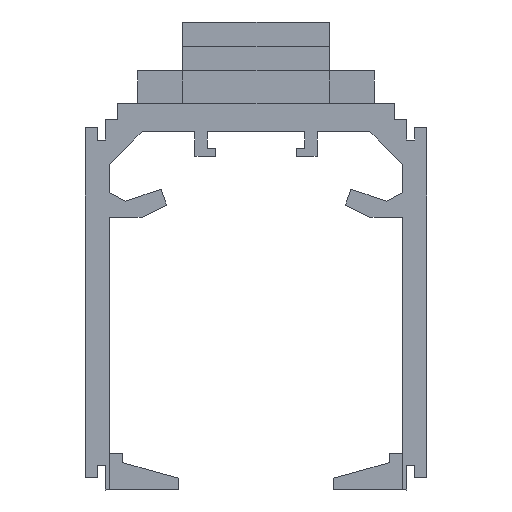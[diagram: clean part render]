
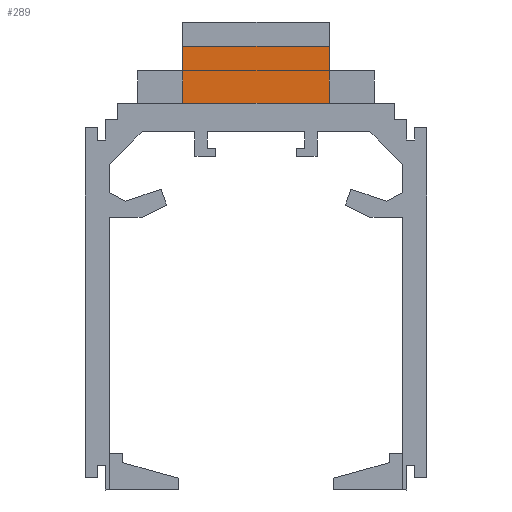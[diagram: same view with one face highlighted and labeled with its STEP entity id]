
A CAD part, left-side view. The second image highlights one B-rep face of the part: STEP entity #289.
In plain terms, the highlighted planar face has unit normal (-1, 0, 0).
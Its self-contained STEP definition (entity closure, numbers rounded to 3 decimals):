
#289=ADVANCED_FACE('',(#698),#699,.T.);
#698=FACE_OUTER_BOUND('',#1233,.T.);
#699=PLANE('',#1234);
#1233=EDGE_LOOP('',(#2018,#2019,#2020,#2021));
#1234=AXIS2_PLACEMENT_3D('',#2022,#2023,#2024);
#2018=ORIENTED_EDGE('',*,*,#3432,.T.);
#2019=ORIENTED_EDGE('',*,*,#3433,.F.);
#2020=ORIENTED_EDGE('',*,*,#3434,.F.);
#2021=ORIENTED_EDGE('',*,*,#3435,.F.);
#2022=CARTESIAN_POINT('',(126.5,30.0,55.5));
#2023=DIRECTION('',(-1.0,0.,0.));
#2024=DIRECTION('',(0.0,0.,-1.0));
#3432=EDGE_CURVE('',#4159,#4160,#4161,.T.);
#3433=EDGE_CURVE('',#4162,#4160,#4163,.T.);
#3434=EDGE_CURVE('',#4164,#4162,#4165,.T.);
#3435=EDGE_CURVE('',#4159,#4164,#4166,.T.);
#4159=VERTEX_POINT('',#5240);
#4160=VERTEX_POINT('',#5241);
#4161=LINE('',#5242,#5243);
#4162=VERTEX_POINT('',#5244);
#4163=LINE('',#5245,#5246);
#4164=VERTEX_POINT('',#5247);
#4165=LINE('',#5248,#5249);
#4166=LINE('',#5250,#5251);
#5240=CARTESIAN_POINT('',(126.5,30.0,54.5));
#5241=CARTESIAN_POINT('',(126.5,30.0,47.5));
#5242=CARTESIAN_POINT('',(126.5,30.0,55.5));
#5243=VECTOR('',#6384,1.0);
#5244=CARTESIAN_POINT('',(126.5,12.0,47.5));
#5245=CARTESIAN_POINT('',(126.5,17.25,47.5));
#5246=VECTOR('',#6385,1.0);
#5247=CARTESIAN_POINT('',(126.5,12.0,54.5));
#5248=CARTESIAN_POINT('',(126.5,12.0,55.5));
#5249=VECTOR('',#6386,1.0);
#5250=CARTESIAN_POINT('',(126.5,30.0,54.5));
#5251=VECTOR('',#6387,1.0);
#6384=DIRECTION('',(0.0,0.,-1.0));
#6385=DIRECTION('',(0.,1.0,0.0));
#6386=DIRECTION('',(0.0,0.,-1.0));
#6387=DIRECTION('',(0.,-1.0,0.));
